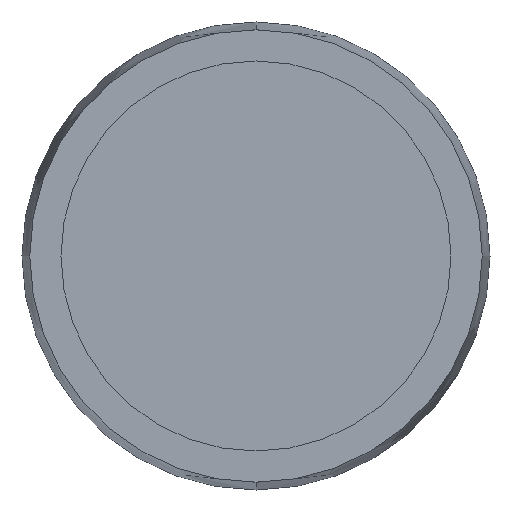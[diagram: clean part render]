
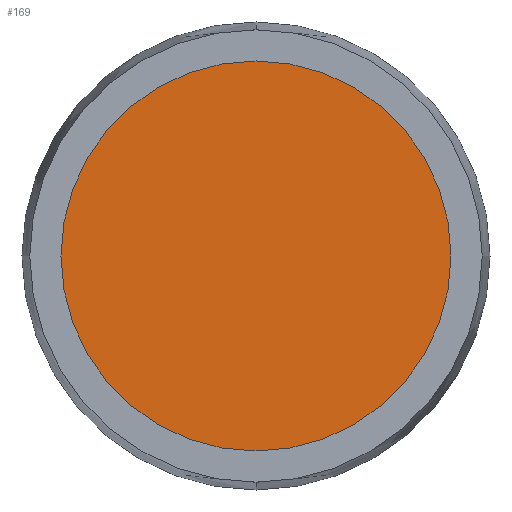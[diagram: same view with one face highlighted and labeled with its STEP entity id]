
A CAD part, front view. The second image highlights one B-rep face of the part: STEP entity #169.
In plain terms, the highlighted planar face has unit normal (0, -1, 0).
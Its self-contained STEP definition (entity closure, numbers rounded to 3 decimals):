
#62 = VERTEX_POINT ( 'NONE', #157 ) ;
#66 = EDGE_LOOP ( 'NONE', ( #694, #425 ) ) ;
#71 = CARTESIAN_POINT ( 'NONE',  ( 0., 0., 0. ) ) ;
#86 = AXIS2_PLACEMENT_3D ( 'NONE', #358, #573, #138 ) ;
#107 = CARTESIAN_POINT ( 'NONE',  ( 0., 0., -10. ) ) ;
#138 = DIRECTION ( 'NONE',  ( 0., 0., 1. ) ) ;
#157 = CARTESIAN_POINT ( 'NONE',  ( 0., 0., 10. ) ) ;
#169 = ADVANCED_FACE ( 'NONE', ( #692 ), #469, .F. ) ;
#214 = CIRCLE ( 'NONE', #531, 10. ) ;
#306 = DIRECTION ( 'NONE',  ( 0., 1., 0. ) ) ;
#322 = CARTESIAN_POINT ( 'NONE',  ( 0., 0., 0. ) ) ;
#341 = VERTEX_POINT ( 'NONE', #107 ) ;
#358 = CARTESIAN_POINT ( 'NONE',  ( 0., 0., 0. ) ) ;
#379 = DIRECTION ( 'NONE',  ( 0., 0., 1. ) ) ;
#425 = ORIENTED_EDGE ( 'NONE', *, *, #612, .F. ) ;
#431 = CIRCLE ( 'NONE', #556, 10. ) ;
#436 = DIRECTION ( 'NONE',  ( 0., 1., 0. ) ) ;
#455 = EDGE_CURVE ( 'NONE', #341, #62, #431, .T. ) ;
#469 = PLANE ( 'NONE',  #86 ) ;
#471 = DIRECTION ( 'NONE',  ( 0., 0., 1. ) ) ;
#531 = AXIS2_PLACEMENT_3D ( 'NONE', #322, #436, #379 ) ;
#556 = AXIS2_PLACEMENT_3D ( 'NONE', #71, #306, #471 ) ;
#573 = DIRECTION ( 'NONE',  ( 0., 1., 0. ) ) ;
#612 = EDGE_CURVE ( 'NONE', #62, #341, #214, .T. ) ;
#692 = FACE_OUTER_BOUND ( 'NONE', #66, .T. ) ;
#694 = ORIENTED_EDGE ( 'NONE', *, *, #455, .F. ) ;
